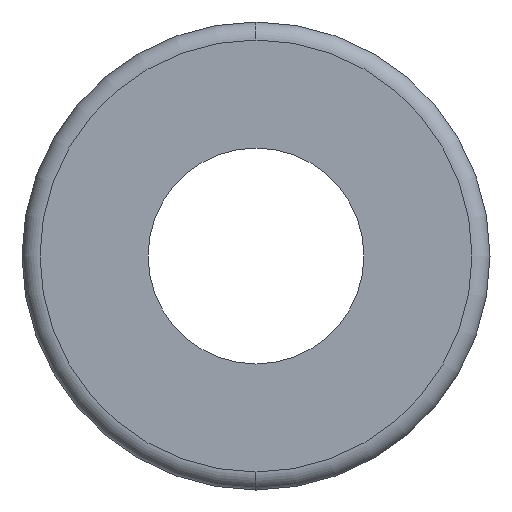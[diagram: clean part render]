
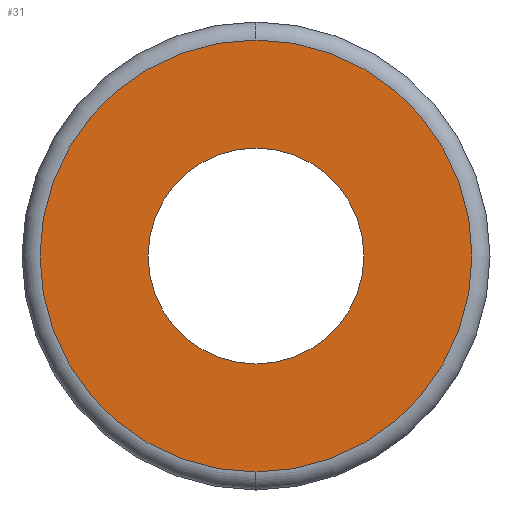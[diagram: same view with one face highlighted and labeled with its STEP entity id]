
A CAD part, left-side view. The second image highlights one B-rep face of the part: STEP entity #31.
In plain terms, the highlighted planar face has unit normal (-1, 0, 0).
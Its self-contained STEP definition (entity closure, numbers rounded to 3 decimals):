
#5 = CIRCLE ( 'NONE', #196, 6. ) ;
#22 = ORIENTED_EDGE ( 'NONE', *, *, #41, .F. ) ;
#24 = CARTESIAN_POINT ( 'NONE',  ( 0., 0., 0. ) ) ;
#25 = EDGE_CURVE ( 'NONE', #174, #352, #60, .T. ) ;
#27 = CARTESIAN_POINT ( 'NONE',  ( 0., 0., 0. ) ) ;
#30 = AXIS2_PLACEMENT_3D ( 'NONE', #397, #246, #81 ) ;
#31 = ADVANCED_FACE ( 'NONE', ( #375, #152 ), #85, .F. ) ;
#41 = EDGE_CURVE ( 'NONE', #300, #362, #190, .T. ) ;
#50 = DIRECTION ( 'NONE',  ( 0., 0., -1. ) ) ;
#58 = DIRECTION ( 'NONE',  ( -1., 0., 0. ) ) ;
#60 = CIRCLE ( 'NONE', #344, 12. ) ;
#63 = EDGE_CURVE ( 'NONE', #362, #300, #5, .T. ) ;
#81 = DIRECTION ( 'NONE',  ( 0., 0., -1. ) ) ;
#85 = PLANE ( 'NONE',  #227 ) ;
#95 = DIRECTION ( 'NONE',  ( -1., 0., 0. ) ) ;
#100 = EDGE_LOOP ( 'NONE', ( #318, #22 ) ) ;
#106 = ORIENTED_EDGE ( 'NONE', *, *, #25, .T. ) ;
#112 = CARTESIAN_POINT ( 'NONE',  ( 0., 0., -6. ) ) ;
#124 = DIRECTION ( 'NONE',  ( 0., 0., 1. ) ) ;
#148 = CARTESIAN_POINT ( 'NONE',  ( 0., 0., -12. ) ) ;
#152 = FACE_BOUND ( 'NONE', #100, .T. ) ;
#174 = VERTEX_POINT ( 'NONE', #216 ) ;
#190 = CIRCLE ( 'NONE', #207, 6. ) ;
#196 = AXIS2_PLACEMENT_3D ( 'NONE', #27, #58, #124 ) ;
#198 = ORIENTED_EDGE ( 'NONE', *, *, #363, .T. ) ;
#207 = AXIS2_PLACEMENT_3D ( 'NONE', #24, #359, #384 ) ;
#211 = CARTESIAN_POINT ( 'NONE',  ( 0., 0., 0. ) ) ;
#216 = CARTESIAN_POINT ( 'NONE',  ( 0., 0., 12. ) ) ;
#220 = EDGE_LOOP ( 'NONE', ( #198, #106 ) ) ;
#227 = AXIS2_PLACEMENT_3D ( 'NONE', #323, #287, #50 ) ;
#246 = DIRECTION ( 'NONE',  ( -1., 0., 0. ) ) ;
#287 = DIRECTION ( 'NONE',  ( 1., 0., 0. ) ) ;
#300 = VERTEX_POINT ( 'NONE', #112 ) ;
#314 = DIRECTION ( 'NONE',  ( 0., 0., -1. ) ) ;
#318 = ORIENTED_EDGE ( 'NONE', *, *, #63, .F. ) ;
#319 = CARTESIAN_POINT ( 'NONE',  ( 0., 0., 6. ) ) ;
#323 = CARTESIAN_POINT ( 'NONE',  ( 0., 6., 0. ) ) ;
#344 = AXIS2_PLACEMENT_3D ( 'NONE', #211, #95, #314 ) ;
#352 = VERTEX_POINT ( 'NONE', #148 ) ;
#359 = DIRECTION ( 'NONE',  ( -1., 0., 0. ) ) ;
#360 = CIRCLE ( 'NONE', #30, 12. ) ;
#362 = VERTEX_POINT ( 'NONE', #319 ) ;
#363 = EDGE_CURVE ( 'NONE', #352, #174, #360, .T. ) ;
#375 = FACE_OUTER_BOUND ( 'NONE', #220, .T. ) ;
#384 = DIRECTION ( 'NONE',  ( 0., 0., 1. ) ) ;
#397 = CARTESIAN_POINT ( 'NONE',  ( 0., 0., 0. ) ) ;
